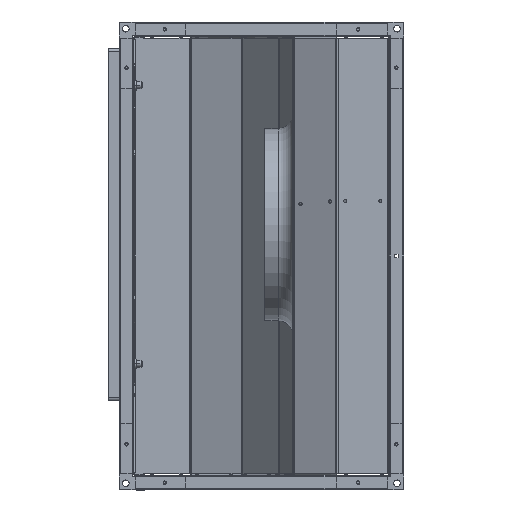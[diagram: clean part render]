
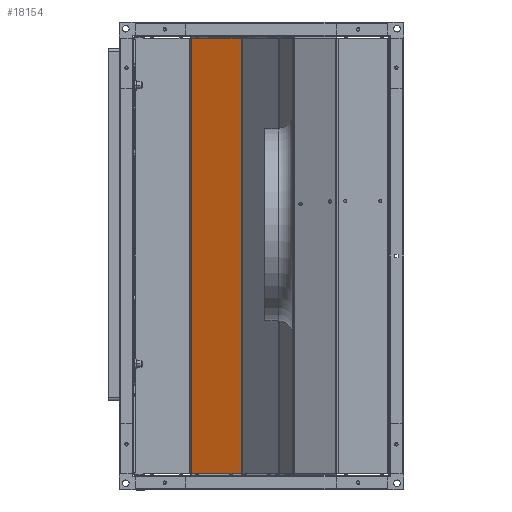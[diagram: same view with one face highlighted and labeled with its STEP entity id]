
A CAD part, left-side view. The second image highlights one B-rep face of the part: STEP entity #18154.
In plain terms, the highlighted planar face has unit normal (0.932, -0.362, 0).
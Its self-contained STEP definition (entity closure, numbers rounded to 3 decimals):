
#5348 = ORIENTED_EDGE ( 'NONE', *, *, #12118, .T. ) ;
#5352 = ORIENTED_EDGE ( 'NONE', *, *, #11861, .T. ) ;
#5373 = ORIENTED_EDGE ( 'NONE', *, *, #12116, .T. ) ;
#6020 = ORIENTED_EDGE ( 'NONE', *, *, #12138, .F. ) ;
#11152 = DIRECTION ( 'NONE',  ( -0.362, -0.932, 0. ) ) ;
#11160 = DIRECTION ( 'NONE',  ( -0.932, 0.362, 0. ) ) ;
#11169 = CARTESIAN_POINT ( 'NONE',  ( 266.036, 201.383, 299. ) ) ;
#11172 = PLANE ( 'NONE',  #21097 ) ;
#11861 = EDGE_CURVE ( 'NONE', #22797, #22668, #17409, .T. ) ;
#12116 = EDGE_CURVE ( 'NONE', #25684, #22797, #17033, .T. ) ;
#12118 = EDGE_CURVE ( 'NONE', #22768, #25684, #17031, .T. ) ;
#12138 = EDGE_CURVE ( 'NONE', #22768, #22668, #17016, .T. ) ;
#12547 = CARTESIAN_POINT ( 'NONE',  ( 292.977, 270.772, -296.7 ) ) ;
#12618 = CARTESIAN_POINT ( 'NONE',  ( 292.977, 270.772, 296.7 ) ) ;
#12647 = CARTESIAN_POINT ( 'NONE',  ( 266.505, 202.592, -296.7 ) ) ;
#14416 = DIRECTION ( 'NONE',  ( 0.362, 0.932, 0. ) ) ;
#14419 = CARTESIAN_POINT ( 'NONE',  ( 266.335, 202.153, -296.7 ) ) ;
#16997 = VECTOR ( 'NONE', #30939, 1000. ) ;
#17016 = LINE ( 'NONE', #30711, #16997 ) ;
#17029 = VECTOR ( 'NONE', #30748, 1000. ) ;
#17031 = LINE ( 'NONE', #30742, #17029 ) ;
#17032 = VECTOR ( 'NONE', #31191, 1000. ) ;
#17033 = LINE ( 'NONE', #30777, #17032 ) ;
#17409 = LINE ( 'NONE', #14419, #17411 ) ;
#17411 = VECTOR ( 'NONE', #14416, 1000. ) ;
#18154 = ADVANCED_FACE ( 'NONE', ( #31521 ), #11172, .F. ) ;
#21097 = AXIS2_PLACEMENT_3D ( 'NONE', #11169, #11160, #11152 ) ;
#22668 = VERTEX_POINT ( 'NONE', #12547 ) ;
#22768 = VERTEX_POINT ( 'NONE', #12618 ) ;
#22797 = VERTEX_POINT ( 'NONE', #12647 ) ;
#25684 = VERTEX_POINT ( 'NONE', #29449 ) ;
#28409 = EDGE_LOOP ( 'NONE', ( #5352, #6020, #5348, #5373 ) ) ;
#29449 = CARTESIAN_POINT ( 'NONE',  ( 266.505, 202.592, 296.7 ) ) ;
#30711 = CARTESIAN_POINT ( 'NONE',  ( 292.977, 270.772, 299. ) ) ;
#30742 = CARTESIAN_POINT ( 'NONE',  ( 293.16, 271.243, 296.7 ) ) ;
#30748 = DIRECTION ( 'NONE',  ( -0.362, -0.932, 0. ) ) ;
#30777 = CARTESIAN_POINT ( 'NONE',  ( 266.505, 202.592, 299. ) ) ;
#30939 = DIRECTION ( 'NONE',  ( 0., 0., -1. ) ) ;
#31191 = DIRECTION ( 'NONE',  ( 0., 0., -1. ) ) ;
#31521 = FACE_OUTER_BOUND ( 'NONE', #28409, .T. ) ;
